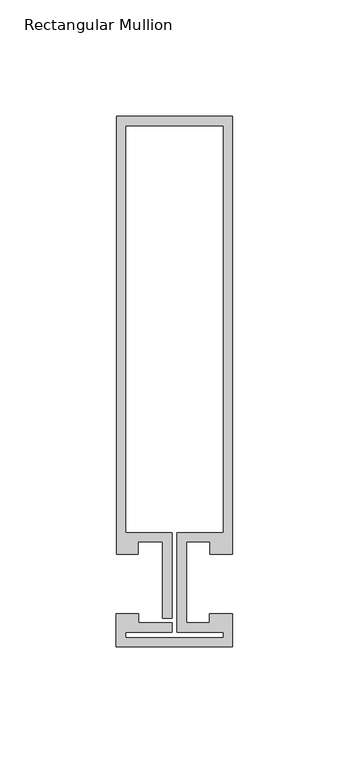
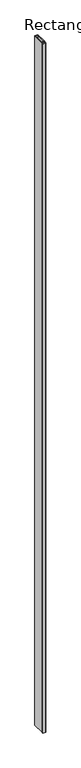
"""IFC4 building model written with IfcOpenShell, lengths in millimetres: member geometry, Rectangular Mullion : Reynaers_CW-50_Transom-Transom_188.5mm_Facecap-02A."""

from ifc_helpers import new_model, si_unit, frame, origin, place, context, project, spatial, polyline, outline, extrude, source, transform, mapped, element, save


def rectangular_mullion_bd02d50f(model_context):
    return source(origin(), model_context, "Body", "SweptSolid", [
        extrude(outline(polyline([(25.1995941, -12.7331291), (25.1995941, -27.0331291), (-24.994845, -27.0331291), (-24.994845, -12.7331291), (-15.2996495, -12.7331291), (-15.2996495, -16.7331291), (-0.9004059, -16.7331291), (-0.9004059, -20.7331291), (-20.994845, -20.7331291), (-20.994845, -23.0331291), (21.1995941, -23.0331291), (21.1995941, -20.7331291), (1.2995941, -20.7331291), (1.2995941, 22.1331291), (21.1995941, 22.1331291), (21.1995941, 197.2331291), (-20.8004059, 197.2331291), (-20.8004059, 22.1331291), (-0.9004059, 22.1331291), (-0.9004059, -14.7331291), (-4.9004059, -14.7331291), (-4.9004059, 18.1331291), (-15.499, 18.1331291), (-15.499, 12.7331291), (-24.8004059, 12.7331291), (-24.8004059, 201.2331291), (25.1995941, 201.2331291), (25.1995941, 12.7331291), (15.499, 12.7331291), (15.499, 18.1331291), (5.2995941, 18.1331291), (5.2995941, -16.7331291), (15.2996495, -16.7331291), (15.2996495, -12.7331291), (25.1995941, -12.7331291)])), frame((0.0, 0.0, -12000.0), z_axis=(0.0, 0.0, 1.0), x_axis=(1.0, 0.0, 0.0)), (0.0, 0.0, 1.0), 12000.0),
    ])


if __name__ == "__main__":
    model = new_model("IFC4")
    model_context = context("Model", 3, world=origin())
    ifc_project = project(units=[si_unit("LENGTHUNIT", "METRE", prefix="MILLI")], contexts=[model_context])
    site = spatial("IfcSite", under=ifc_project)
    building = spatial("IfcBuilding", under=site)
    placement = place(None, origin())
    rectangular_mullion_shape = rectangular_mullion_bd02d50f(model_context)
    element("IfcMember", 1, ObjectType="Rectangular Mullion : Reynaers_CW-50_Transom-Transom_188.5mm_Facecap-02A", at=placement, inside=building, context=model_context, shape_type="MappedRepresentation", body=[
        mapped(rectangular_mullion_shape, transform((0.0, 0.0, 0.0), x_axis=(1.0, 0.0, 0.0), y_axis=(0.0, 1.0, 0.0), z_axis=(0.0, 0.0, 1.0))),
    ])
    save(model, "model.ifc")
